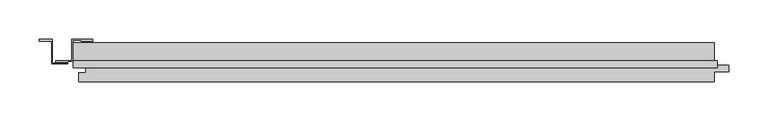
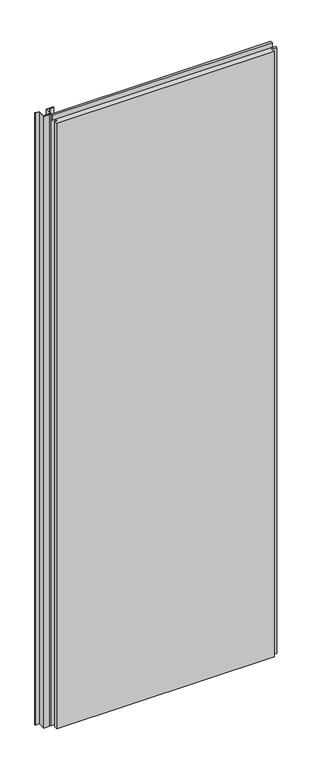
"""IFC4 building model written with IfcOpenShell, lengths in millimetres: plate geometry, Trimo_Qbiss Screen_Normal Panel-VERTICAL : HR - FB."""

from ifc_helpers import new_model, si_unit, frame, origin, place, context, project, spatial, polyline, outline, extrude, source, transform, mapped, element, save


def plate_4783281a(model_context):
    return source(origin(), model_context, "Body", "SweptSolid", [
        extrude(outline(polyline([(-361.0, 127.6), (-376.0, 127.6), (-376.0, 128.4), (-361.8, 128.4), (-361.8, 129.2), (-387.0, 129.2), (-387.0, 102.4), (-407.2, 102.4), (-407.2, 101.6), (-393.0, 101.6), (-393.0, 100.8), (-408.0, 100.8), (-408.0, 103.2), (-387.8, 103.2), (-387.8, 130.0), (-361.0, 130.0), (-361.0, 127.6)])), frame((0.0, 0.0, 12.5), z_axis=(0.0, 0.0, 1.0), x_axis=(1.0, 0.0, 0.0)), (0.0, 0.0, 1.0), 2400.0),
        extrude(outline(polyline([(-393.0, 100.0), (-393.0, 99.2), (-413.6, 99.2), (-413.6, 129.2), (-428.2, 129.2), (-428.2, 128.4), (-414.0, 128.4), (-414.0, 127.6), (-429.0, 127.6), (-429.0, 130.0), (-412.8, 130.0), (-412.8, 100.0), (-393.0, 100.0)])), frame((0.0, 0.0, 12.5), z_axis=(0.0, 0.0, 1.0), x_axis=(1.0, 0.0, 0.0)), (0.0, 0.0, 1.0), 2400.0),
        extrude(outline(polyline([(-386.0, 93.9), (-386.0, 102.6), (431.0, 102.6), (431.0, 93.9), (-386.0, 93.9)])), frame((0.0, 0.0, 2390.5), z_axis=(0.0, 0.0, 1.0), x_axis=(1.0, 0.0, 0.0)), (0.0, 0.0, 1.0), 19.0),
        extrude(outline(polyline([(427.0, 97.0), (445.5, 97.0), (445.5, 89.0), (427.0, 89.0), (427.0, 76.0), (-379.0, 76.0), (-379.0, 88.0), (-370.5, 88.0), (-370.5, 98.0), (-386.0, 98.0), (-386.0, 126.0), (427.0, 126.0), (427.0, 97.0)])), frame((0.0, 0.0, 12.5), z_axis=(0.0, 0.0, 1.0), x_axis=(1.0, 0.0, 0.0)), (0.0, 0.0, 1.0), 2375.0),
    ])


if __name__ == "__main__":
    model = new_model("IFC4")
    model_context = context("Model", 3, world=origin())
    ifc_project = project(units=[si_unit("LENGTHUNIT", "METRE", prefix="MILLI")], contexts=[model_context])
    site = spatial("IfcSite", under=ifc_project)
    building = spatial("IfcBuilding", under=site)
    placement = place(None, origin())
    plate_shape = plate_4783281a(model_context)
    element("IfcPlate", 1, ObjectType="Trimo_Qbiss Screen_Normal Panel-VERTICAL : HR - FB", at=placement, inside=building, context=model_context, shape_type="MappedRepresentation", body=[
        mapped(plate_shape, transform((0.0, 0.0, 0.0), x_axis=(1.0, 0.0, 0.0), y_axis=(0.0, 1.0, 0.0), z_axis=(0.0, 0.0, 1.0))),
    ])
    save(model, "model.ifc")
